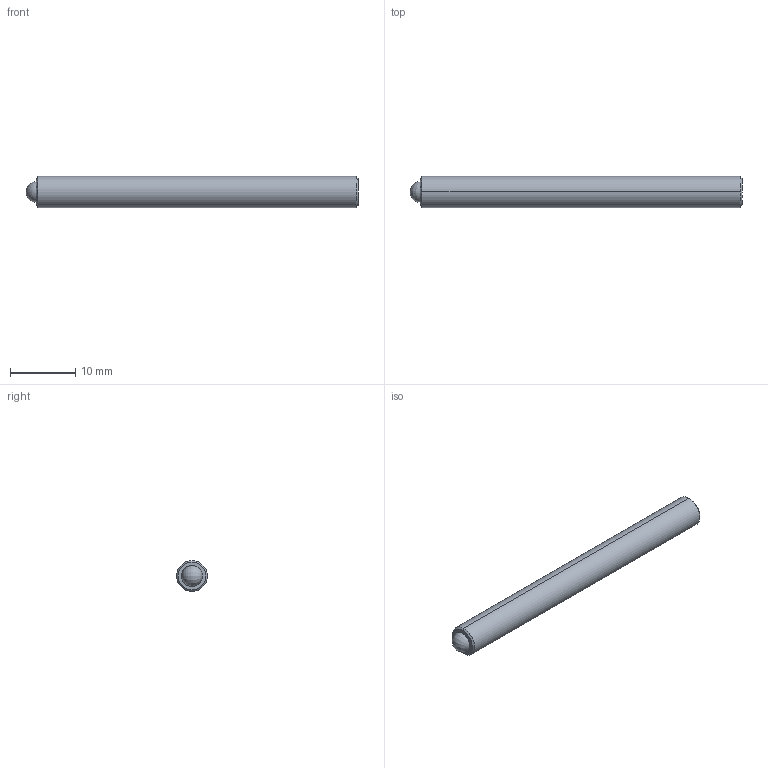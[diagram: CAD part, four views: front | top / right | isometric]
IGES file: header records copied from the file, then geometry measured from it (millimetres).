
Start section: SolidWorks IGES file using analytic representation for surfaces
Global section: file name: C:\Users\workpc\Desktop\KMA Solidworks\TS187-100 Series\TS187-100 High Vacuum\TS187-100-High Vacuum SLDPRT\TS187-100-2000-HV.IGS; native system: SolidWorks 2013; preprocessor: SolidWorks 2013; author: workpc; date: 130509.083252; units: inch
Bounding box: 50.79 x 4.75 x 4.75 mm (x, y, z)
Surface area: 828.5 mm2 (no closed solid volume)
Topology: 0 solids, 0 shells, 24 faces, 240 edges, 236 vertices
Faces by surface type: revolution 14, bspline 10
